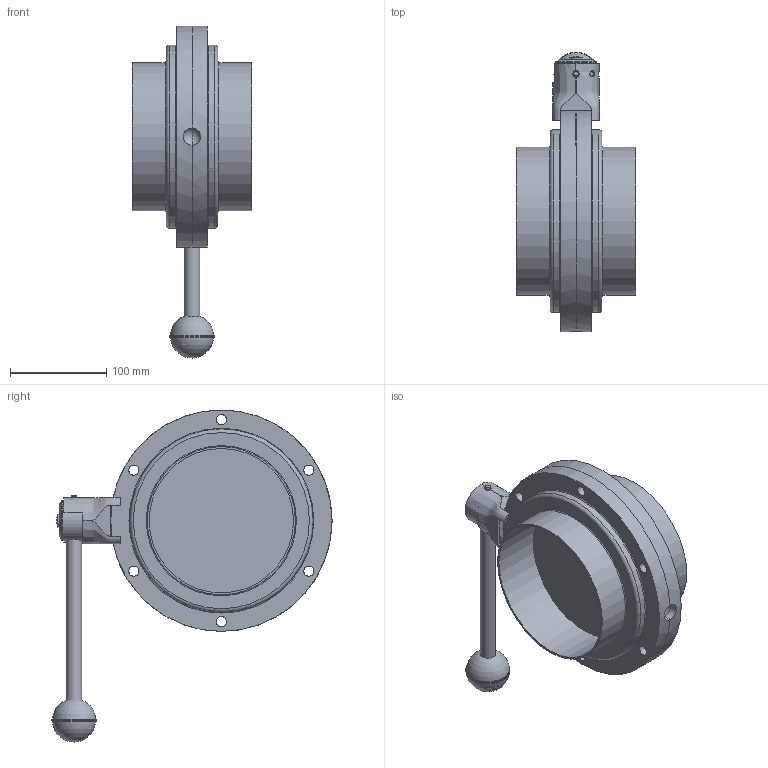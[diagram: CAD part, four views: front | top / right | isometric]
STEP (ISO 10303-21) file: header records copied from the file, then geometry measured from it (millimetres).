
FILE_DESCRIPTION(/* description */ ('VVF VALV.FARF.DN150 (154X2) SS EPDM 316 LEVA INOX 3POS.'),/* implementation_level */ '2;1');
FILE_NAME(/* name */ 'C:\_DED_PWS\ZIGN-L\DB\B\EBA\BEBACG150BEBV-00^SAGOMA.step',/* time_stamp */ '2022-09-30T15:18:18+02:00',/* author */ (''),/* organization */ (''),/* preprocessor_version */ 'ST-DEVELOPER v18.1',/* originating_system */ 'Autodesk Inventor 2022',/* authorisation */ '');
FILE_SCHEMA (('CONFIG_CONTROL_DESIGN'));
Length unit declared in the file: millimetre
Products named in the file (9): BEBACG150BEBV; TNU430150AAA; 3DAAZVFAP008; 3DAAZVFAP009; 3DAAZVFAP010; 3DAAZVFAP005; 3DAAZVFAP007; RBBAA06X16; TWD005150BBA
Assembly tree (9 placements, depth 3):
  BEBACG150BEBV
    TNU430150AAA
      3DAAZVFAP008
      3DAAZVFAP009
      3DAAZVFAP010
      3DAAZVFAP005
      3DAAZVFAP007
      RBBAA06X16
    TWD005150BBA  x2
Bounding box: 124 x 290.95 x 344.95 mm (x, y, z)
Volume: 1642087.9 mm3; surface area: 340223 mm2
Topology: 8 solids, 8 shells, 576 faces, 1399 edges, 926 vertices
Faces by surface type: plane 403, torus 95, cylinder 54, bspline 14, cone 6, sphere 4
Full cylindrical faces by diameter (mm): 6 x2, 6.5 x3, 6.9 x1, 9.3 x1, 10 x1, 10.5 x12, 10.8 x2, 11.1 x1, 11.4 x2, 11.8 x1, 13.4 x1, 16 x3, 16.1 x1, 16.2 x1, 19.8 x1, 20 x1, 20.5 x1, 42 x1, 150 x2, 154 x2, 190 x2, 230 x2
Entity records: 30393 total; most frequent: CARTESIAN_POINT 16862, DIRECTION 2848, ORIENTED_EDGE 2676, EDGE_CURVE 1338, AXIS2_PLACEMENT_3D 1181, VERTEX_POINT 888, EDGE_LOOP 670, CIRCLE 608
